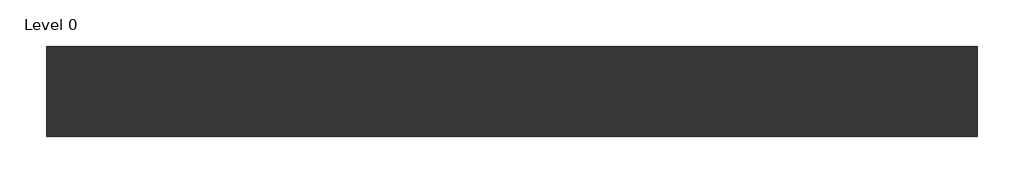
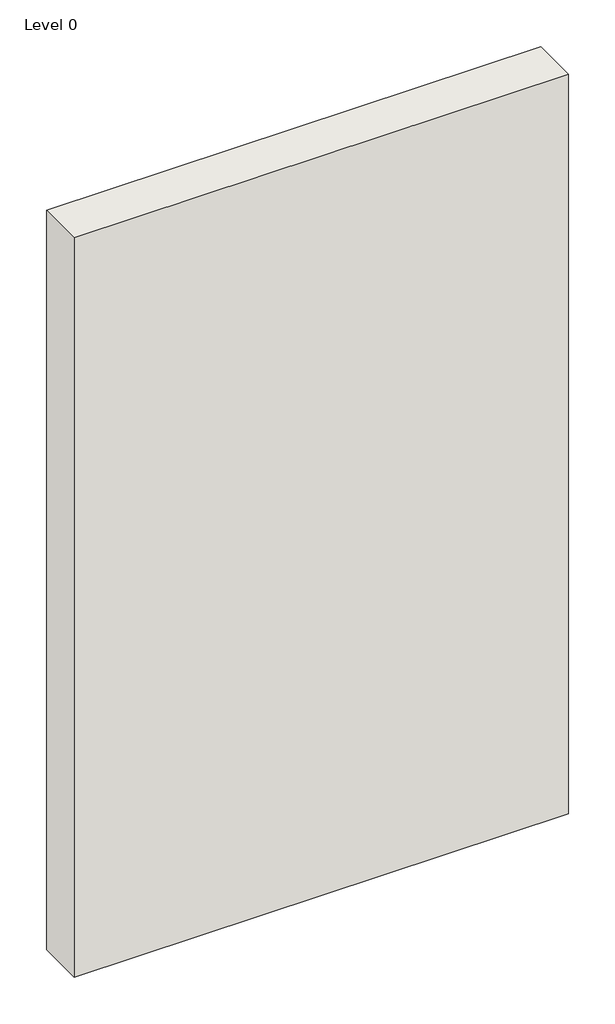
# One storey: 1 wall.
"""IFC4 building model written with IfcOpenShell, lengths in millimetres."""

import ifcopenshell
import ifcopenshell.guid

model = None  # the IFC model being written
_history = None  # IfcOwnerHistory: only IFC2X3 demands one
_inside = {}  # id of a spatial element -> (the spatial element, [elements in it])
_under = {}  # id of a project, library or spatial element -> (it, [spatial elements below it])
_declared = {}  # id of a project -> (the project, [libraries it declares])
_typed = {}  # id of a type object -> (the type object, [elements of that type])
_made_of = {}  # id of a material, layer set ... -> (it, [elements and type objects made of it])


def new_model(schema):
    """Start an empty IFC model of exactly this schema.

    Asked for "IFC4X3", IfcOpenShell would pick the latest addendum, in which some entities
    have other attributes; the version numbers below select the first issue.
    IFC2X3 requires an IfcOwnerHistory on every rooted entity: one is made here for all.
    """
    global model, _history
    if schema == "IFC4X3":
        model = ifcopenshell.file(schema_version=(4, 3, 0, 0))
    else:
        model = ifcopenshell.file(schema=schema)
    _inside.clear()
    _under.clear()
    _declared.clear()
    _typed.clear()
    _made_of.clear()
    _history = None
    if model.schema == "IFC2X3":
        org = make("IfcOrganization", Name="unknown")
        user = make(
            "IfcPersonAndOrganization",
            ThePerson=make("IfcPerson", FamilyName="unknown"),
            TheOrganization=org,
        )
        app = make(
            "IfcApplication",
            ApplicationDeveloper=org,
            Version="unknown",
            ApplicationFullName="unknown",
            ApplicationIdentifier="unknown",
        )
        _history = make(
            "IfcOwnerHistory",
            OwningUser=user,
            OwningApplication=app,
            ChangeAction="ADDED",
            CreationDate=0,
        )
    return model


def make(cls, **values):
    """One entity of the class cls with the attributes given. An attribute that is None is left unset."""
    return model.create_entity(
        cls, **{name: value for name, value in values.items() if value is not None}
    )


def rooted(cls, **values):
    """An entity with a GlobalId (a new one), such as an element, a storey or a relation."""
    return make(cls, GlobalId=ifcopenshell.guid.new(), OwnerHistory=_history, **values)


def si_unit(unit_type, name, prefix=None):
    """IfcSIUnit, for example si_unit("LENGTHUNIT", "METRE", prefix="MILLI")."""
    return make("IfcSIUnit", UnitType=unit_type, Prefix=prefix, Name=name)


def assignment(units):
    """IfcUnitAssignment: the units of a project."""
    return None if units is None else make("IfcUnitAssignment", Units=units)


def point(xyz):
    """IfcCartesianPoint."""
    return None if xyz is None else make("IfcCartesianPoint", Coordinates=xyz)


def direction(xyz):
    """IfcDirection."""
    return None if xyz is None else make("IfcDirection", DirectionRatios=xyz)


def frame(location, z_axis=None, x_axis=None):
    """IfcAxis2Placement3D, a coordinate frame: its origin and axes. An axis left out is left unset."""
    return make(
        "IfcAxis2Placement3D",
        Location=point(location),
        Axis=direction(z_axis),
        RefDirection=direction(x_axis),
    )


def origin():
    """The frame at (0, 0, 0) with its axes left unset."""
    return frame((0.0, 0.0, 0.0))


def origin_with_axes():
    """The frame at (0, 0, 0) with the z axis (0, 0, 1) and the x axis (1, 0, 0) written out."""
    return frame((0.0, 0.0, 0.0), z_axis=(0.0, 0.0, 1.0), x_axis=(1.0, 0.0, 0.0))


def place(relative_to, where):
    """IfcLocalPlacement: puts the frame where relative to a parent placement (None: the world)."""
    return make(
        "IfcLocalPlacement", PlacementRelTo=relative_to, RelativePlacement=where
    )


def context(
    kind, dimensions, precision=None, world=None, true_north=None, identifier=None
):
    """IfcGeometricRepresentationContext, for example the 3D "Model" context."""
    return make(
        "IfcGeometricRepresentationContext",
        ContextIdentifier=identifier,
        ContextType=kind,
        CoordinateSpaceDimension=dimensions,
        Precision=precision,
        WorldCoordinateSystem=world,
        TrueNorth=true_north,
    )


def project(units=None, contexts=None):
    """IfcProject with its units and contexts."""
    return rooted(
        "IfcProject",
        Name="project",
        RepresentationContexts=contexts,
        UnitsInContext=assignment(units),
    )


def spatial(cls, under=None, at=None, **own):
    """A site, building, storey or space (cls), placed at a placement, below another one or the project."""
    s = rooted(cls, ObjectPlacement=at, **own)
    if under is not None:
        _under.setdefault(under.id(), (under, []))[1].append(s)
    return s


def polyline(points):
    """IfcPolyline through the points."""
    return make("IfcPolyline", Points=[point(p) for p in points])


def outline(outer, holes=None, kind="AREA"):
    """IfcArbitraryClosedProfileDef: a profile drawn as a closed curve; with holes, ...WithVoids."""
    if holes is None:
        return make("IfcArbitraryClosedProfileDef", ProfileType=kind, OuterCurve=outer)
    return make(
        "IfcArbitraryProfileDefWithVoids",
        ProfileType=kind,
        OuterCurve=outer,
        InnerCurves=holes,
    )


def extrude(swept, where, along, depth):
    """IfcExtrudedAreaSolid: the profile swept, set in the frame where, extruded along a direction by depth."""
    return make(
        "IfcExtrudedAreaSolid",
        SweptArea=swept,
        Position=where,
        ExtrudedDirection=direction(along),
        Depth=depth,
    )


def shape(context_of_items, identifier, shape_type, items):
    """IfcShapeRepresentation: the items that make up one representation, for example the "Body"."""
    return make(
        "IfcShapeRepresentation",
        ContextOfItems=context_of_items,
        RepresentationIdentifier=identifier,
        RepresentationType=shape_type,
        Items=items,
    )


def made_of(thing, what):
    """Note that an element or type object is made of a material, layer set ...; save() writes the relation."""
    if what is not None:
        _made_of.setdefault(what.id(), (what, []))[1].append(thing)
    return thing


def element(
    cls,
    number,
    at=None,
    inside=None,
    cuts=None,
    type_object=None,
    material=None,
    context=None,
    identifier="Body",
    shape_type=None,
    held_by="IfcProductDefinitionShape",
    body=None,
    shapes=None,
    **own,
):
    """One element of the class cls, such as IfcWall. Its Tag is "e" and its number.

    at: its placement. inside: the storey or other place that contains it. cuts: it is an
    opening in that element (IfcRelVoidsElement). A single representation is given by context,
    identifier, shape_type and body (its items); several are given by shapes. held_by: the class
    of the entity that holds the representations. save() writes the other relations.
    """
    e = rooted(cls, Tag="e%d" % number, ObjectPlacement=at, **own)
    if body is not None:
        shapes = [shape(context, identifier, shape_type, body)]
    if shapes is not None:
        e.Representation = make(held_by, Representations=shapes)
    if inside is not None:
        _inside.setdefault(inside.id(), (inside, []))[1].append(e)
    if cuts is not None:
        rooted(
            "IfcRelVoidsElement", RelatingBuildingElement=cuts, RelatedOpeningElement=e
        )
    if type_object is not None:
        _typed.setdefault(type_object.id(), (type_object, []))[1].append(e)
    return made_of(e, material)


def aggregate(whole, parts):
    """IfcRelAggregates: a whole, such as a stair, and the parts it consists of."""
    return rooted("IfcRelAggregates", RelatingObject=whole, RelatedObjects=parts)


def save(model, path):
    """Write the relations noted so far, then the file.

    IfcRelAggregates (storeys below a building ...), IfcRelContainedInSpatialStructure (elements
    in a storey), IfcRelDefinesByType, IfcRelAssociatesMaterial and IfcRelDeclares: one each for
    every whole, place, type object, material and project.
    """
    for whole, parts in _under.values():
        aggregate(whole, parts)
    for where, things in _inside.values():
        rooted(
            "IfcRelContainedInSpatialStructure",
            RelatedElements=things,
            RelatingStructure=where,
        )
    for kind, things in _typed.values():
        rooted("IfcRelDefinesByType", RelatedObjects=things, RelatingType=kind)
    for what, things in _made_of.values():
        rooted("IfcRelAssociatesMaterial", RelatedObjects=things, RelatingMaterial=what)
    for by, libraries in _declared.values():
        rooted("IfcRelDeclares", RelatingContext=by, RelatedDefinitions=libraries)
    model.write(path)


model = new_model("IFC4")

# Units and contexts
model_context = context("Model", 3, world=origin())
ifc_project = project(units=[si_unit("LENGTHUNIT", "METRE", prefix="MILLI")], contexts=[model_context])

# Site, building, storey
site = spatial("IfcSite", under=ifc_project)
building = spatial("IfcBuilding", under=site)
storey = spatial("IfcBuildingStorey", under=building, Name="Level 0", Elevation=0.0)

# Wall
placement = place(None, origin())
element("IfcWall", 1, ObjectType="A326003(a) - GypWall Audio", at=placement, inside=storey, context=model_context, shape_type="SweptSolid", body=[
    extrude(outline(polyline([(1155.997948, 405.2669953), (-1944.002052, 405.2669953), (-1944.002052, 705.2669953), (1155.997948, 705.2669953), (1155.997948, 405.2669953)])), origin_with_axes(), (0.0, 0.0, 1.0), 4900.0),
])

save(model, "model.ifc")
